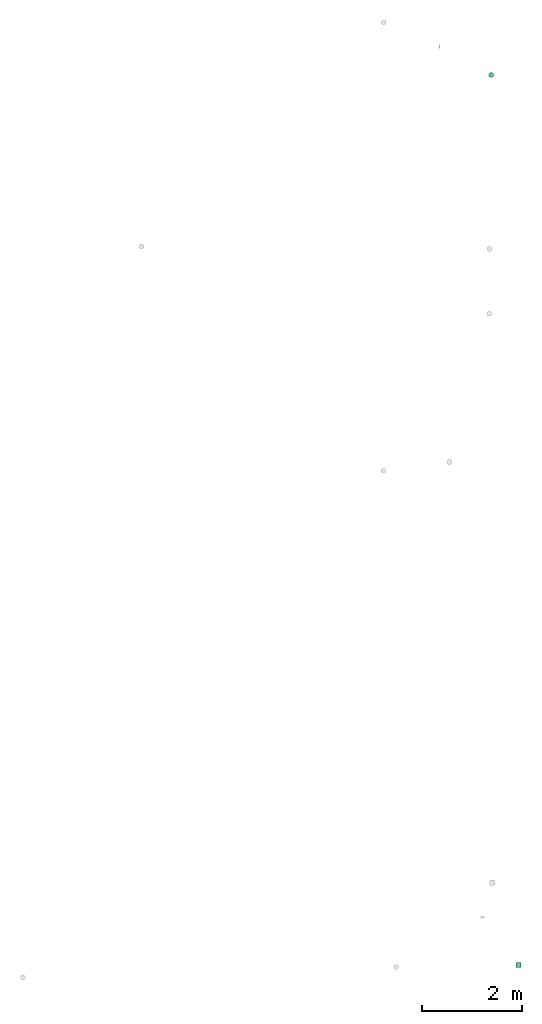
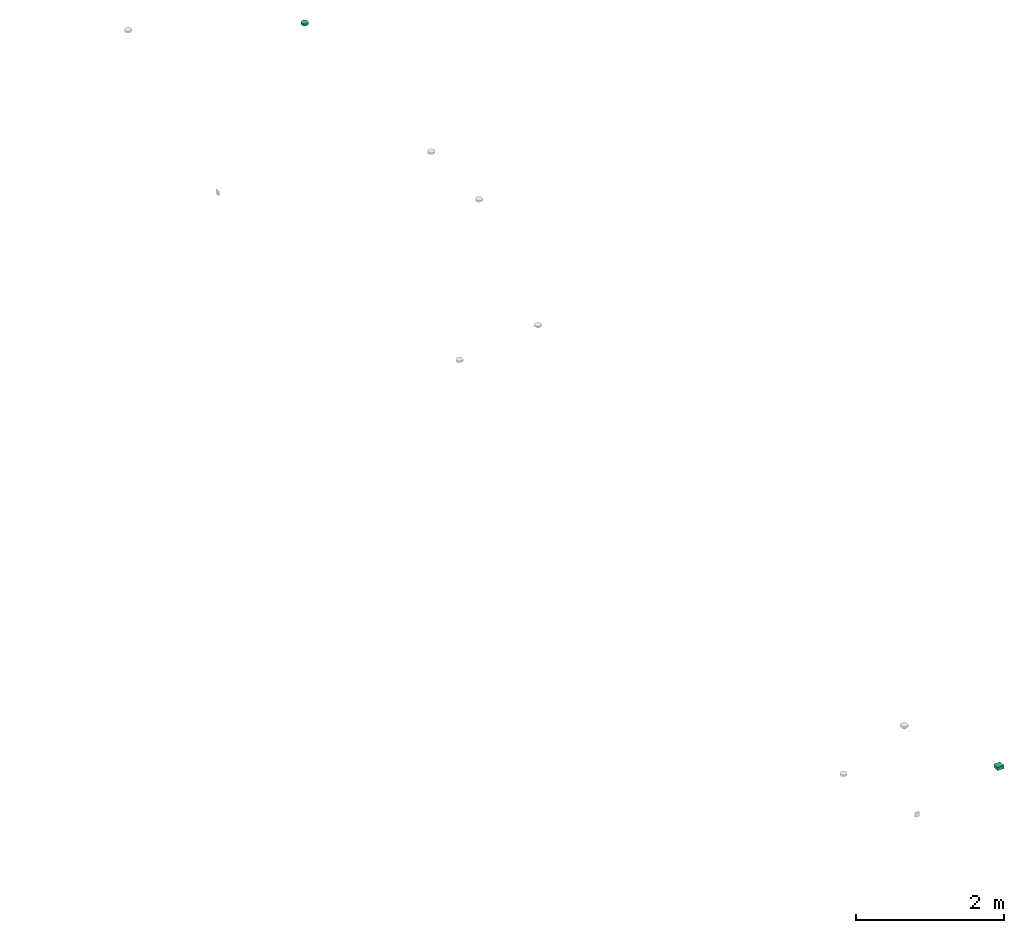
# One storey, part 8 of 10: 2 distribution control elements.
"""IFC2X3 building model written with IfcOpenShell, lengths in millimetres."""

from ifc_helpers import new_model, entity, si_unit, converted_unit, derived_unit, direction, frame, origin_with_axes, place, context, subcontext, project, spatial, open_shell, surface_model, source, transform, mapped, type_object, element, save


model = new_model("IFC2X3")

# Units and contexts
model_context = context("Model", 3, precision=0.01, world=frame((0.0, 4.29681676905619e-09, 0.0)), true_north=direction((4.01073788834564e-13, 1.0)))
plan_context = context("Plan", 3, precision=0.01, world=frame((0.0, 4.29681676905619e-09, 0.0)), true_north=direction((4.01073788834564e-13, 1.0)))
body_context = subcontext(model_context, "Body", "Model", "MODEL_VIEW")
ifc_project = project(units=[converted_unit("PLANEANGLEUNIT", "DEGREE", entity("IfcPositiveLengthMeasure", 0.0174532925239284), si_unit("PLANEANGLEUNIT", "RADIAN"), dimensions=[0, 0, 0, 0, 0, 0, 0]), si_unit("AREAUNIT", "SQUARE_METRE"), si_unit("LENGTHUNIT", "METRE", prefix="MILLI"), si_unit("MASSUNIT", "GRAM", prefix="KILO"), si_unit("POWERUNIT", "WATT"), si_unit("PRESSUREUNIT", "PASCAL"), si_unit("FORCEUNIT", "NEWTON", prefix="KILO"), si_unit("ELECTRICVOLTAGEUNIT", "VOLT"), si_unit("ELECTRICCURRENTUNIT", "AMPERE"), si_unit("THERMODYNAMICTEMPERATUREUNIT", "DEGREE_CELSIUS"), si_unit("TIMEUNIT", "SECOND"), si_unit("VOLUMEUNIT", "CUBIC_METRE"), derived_unit("LINEARVELOCITYUNIT", [(si_unit("LENGTHUNIT", "METRE"), 1), (si_unit("TIMEUNIT", "SECOND"), -1)]), derived_unit("VOLUMETRICFLOWRATEUNIT", [(si_unit("VOLUMEUNIT", "CUBIC_METRE"), 1), (si_unit("TIMEUNIT", "SECOND"), -1)]), derived_unit("THERMALTRANSMITTANCEUNIT", [(si_unit("POWERUNIT", "WATT"), 1), (si_unit("THERMODYNAMICTEMPERATUREUNIT", "KELVIN"), -1), (si_unit("AREAUNIT", "SQUARE_METRE"), -1)]), derived_unit("SOUNDPRESSUREUNIT", [(si_unit("PRESSUREUNIT", "PASCAL"), 1)])], contexts=[model_context, plan_context])

# Site, building, storey
site_placement = place(None, frame((0.0, -4.29681676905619e-09, 0.0), z_axis=(0.0, 0.0, 1.0), x_axis=(1.0, 0.0, 0.0)))
site = spatial("IfcSite", under=ifc_project, at=site_placement, Name="ENGM", CompositionType="ELEMENT")
building_placement = place(site_placement, frame((0.0, 4.29681676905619e-09, 0.0), z_axis=(0.0, 0.0, 1.0), x_axis=(1.0, 0.0, 0.0)))
building = spatial("IfcBuilding", under=site, at=building_placement, Name="TS", CompositionType="ELEMENT")
storey_placement = place(building_placement, frame((0.0, 0.0, 210900.0), z_axis=(0.0, 0.0, 1.0), x_axis=(1.0, 0.0, 0.0)))
storey = spatial("IfcBuildingStorey", under=building, at=storey_placement, Name="Nivå F", CompositionType="ELEMENT", Elevation=210900.0)

# Distribution control elements
alarm_type_1 = type_object("IfcAlarmType", Name="Standard", PredefinedType="NOTDEFINED")
shared_shape_1 = source(origin_with_axes(), body_context, "Body", "SurfaceModel", [
    surface_model("IfcShellBasedSurfaceModel", [(-25.0, 43.30127, -28.9), (-35.35534, 35.35534, -28.9), (-18.0, 31.17691, -28.9), (-25.45584, 25.45584, -28.9), (-9.31749, 34.77333, -28.9), (-12.94095, 48.29629, -28.9), (0.0, 36.0, -28.9), (0.0, 50.0, -28.9), (-34.77333, 9.31749, -28.9), (-43.30127, 25.0, -28.9), (-48.29629, 12.94095, -28.9), (-36.0, 0.0, -28.9), (-50.0, 0.0, -28.9), (-31.17691, 18.0, -28.9), (9.31749, 34.77333, -28.9), (12.94095, 48.29629, -28.9), (18.0, 31.17691, -28.9), (35.35534, 35.35534, -28.9), (25.0, 43.30127, -28.9), (25.45584, 25.45584, -28.9), (31.17691, 18.0, -28.9), (34.77333, 9.31749, -28.9), (43.30127, 25.0, -28.9), (48.29629, 12.94095, -28.9), (36.0, 0.0, -28.9), (50.0, 0.0, -28.9), (-34.77333, -9.31749, -28.9), (-48.29629, -12.94095, -28.9), (-31.17691, -18.0, -28.9), (-43.30127, -25.0, -28.9), (-25.45584, -25.45584, -28.9), (-35.35534, -35.35534, -28.9), (-18.0, -31.17691, -28.9), (-25.0, -43.30127, -28.9), (-9.31749, -34.77333, -28.9), (-12.94095, -48.29629, -28.9), (0.0, -36.0, -28.9), (0.0, -50.0, -28.9), (43.30127, -25.0, -28.9), (31.17691, -18.0, -28.9), (35.35534, -35.35534, -28.9), (34.77333, -9.31749, -28.9), (48.29629, -12.94095, -28.9), (25.45584, -25.45584, -28.9), (9.31749, -34.77333, -28.9), (12.94095, -48.29629, -28.9), (18.0, -31.17691, -28.9), (25.0, -43.30127, -28.9), (-25.0, -43.30127, -29.1), (-35.35534, -35.35534, -29.1), (-18.0, -31.17691, -29.1), (-25.45584, -25.45584, -29.1), (-9.31749, -34.77333, -29.1), (-12.94095, -48.29629, -29.1), (0.0, -36.0, -29.1), (0.0, -50.0, -29.1), (-34.77333, -9.31749, -29.1), (-43.30127, -25.0, -29.1), (-48.29629, -12.94095, -29.1), (-36.0, 0.0, -29.1), (-50.0, 0.0, -29.1), (-31.17691, -18.0, -29.1), (9.31749, -34.77333, -29.1), (12.94095, -48.29629, -29.1), (18.0, -31.17691, -29.1), (35.35534, -35.35534, -29.1), (25.0, -43.30127, -29.1), (25.45584, -25.45584, -29.1), (31.17691, -18.0, -29.1), (34.77333, -9.31749, -29.1), (43.30127, -25.0, -29.1), (48.29629, -12.94095, -29.1), (36.0, 0.0, -29.1), (50.0, 0.0, -29.1), (-34.77333, 9.31749, -29.1), (-48.29629, 12.94095, -29.1), (-31.17691, 18.0, -29.1), (-43.30127, 25.0, -29.1), (-25.45584, 25.45584, -29.1), (-35.35534, 35.35534, -29.1), (-18.0, 31.17691, -29.1), (-25.0, 43.30127, -29.1), (-9.31749, 34.77333, -29.1), (-12.94095, 48.29629, -29.1), (0.0, 36.0, -29.1), (0.0, 50.0, -29.1), (43.30127, 25.0, -29.1), (31.17691, 18.0, -29.1), (35.35534, 35.35534, -29.1), (34.77333, 9.31749, -29.1), (48.29629, 12.94095, -29.1), (25.45584, 25.45584, -29.1), (9.31749, 34.77333, -29.1), (12.94095, 48.29629, -29.1), (18.0, 31.17691, -29.1), (25.0, 43.30127, -29.1), (6.47048, -24.14815, -44.9), (12.5, -21.65064, -44.9), (17.67767, -17.67767, -44.9), (24.14815, -6.47048, -44.9), (-24.14815, -6.47048, -44.9), (21.65064, -12.5, -44.9), (-21.65064, 12.5, -44.9), (0.0, -25.0, -44.9), (-12.5, -21.65064, -44.9), (-6.47048, -24.14815, -44.9), (-17.67767, -17.67767, -44.9), (-21.65064, -12.5, -44.9), (25.0, 0.0, -44.9), (24.14815, 6.47048, -44.9), (21.65064, 12.5, -44.9), (17.67767, 17.67767, -44.9), (12.5, 21.65064, -44.9), (6.47048, 24.14815, -44.9), (0.0, 25.0, -44.9), (-25.0, 0.0, -44.9), (-24.14815, 6.47048, -44.9), (-12.5, 21.65064, -44.9), (-17.67767, 17.67767, -44.9), (-6.47048, 24.14815, -44.9), (0.0, 25.0, -45.1), (6.47048, 24.14815, -45.1), (12.5, 21.65064, -45.1), (-21.65064, 12.5, -45.1), (17.67767, 17.67767, -45.1), (21.65064, 12.5, -45.1), (24.14815, 6.47048, -45.1), (-12.5, 21.65064, -45.1), (-17.67767, 17.67767, -45.1), (-6.47048, 24.14815, -45.1), (-25.0, 0.0, -45.1), (-24.14815, 6.47048, -45.1), (-24.14815, -6.47048, -45.1), (24.14815, -6.47048, -45.1), (6.47048, -24.14815, -45.1), (21.65064, -12.5, -45.1), (17.67767, -17.67767, -45.1), (12.5, -21.65064, -45.1), (-12.5, -21.65064, -45.1), (-17.67767, -17.67767, -45.1), (-21.65064, -12.5, -45.1), (0.0, -25.0, -45.1), (-6.47048, -24.14815, -45.1), (25.0, 0.0, -45.1), (-1.46739, 34.60682, -29.0), (0.0, 34.8, -29.0), (0.0, 35.0, -29.0), (-34.60682, 1.46739, -29.0), (-35.0, 0.0, -29.0), (-34.8, 0.0, -29.0), (-17.5, 30.31089, -29.0), (-18.5742, 29.23669, -29.0), (-17.4, 30.13768, -29.0), (-24.60732, -24.60732, -29.0), (-18.5742, -29.23669, -29.0), (-29.23669, -18.5742, -29.0), (34.8, 0.0, -29.0), (34.60682, -1.46739, -29.0), (35.0, 0.0, -29.0), (17.4, 30.13768, -29.0), (17.5, 30.31089, -29.0), (16.03261, 30.70407, -29.0), (30.13768, 17.4, -29.0), (30.31089, 17.5, -29.0), (29.23669, 18.5742, -29.0), (34.60682, 1.46739, -29.0), (33.61422, -9.0069, -29.0), (30.70407, -16.03261, -29.0), (-33.61422, -9.0069, -29.0), (-30.70407, -16.03261, -29.0), (-34.60682, -1.46739, -29.0), (-30.13768, -17.4, -29.0), (-30.31089, -17.5, -29.0), (-17.5, -30.31089, -29.0), (-17.4, -30.13768, -29.0), (-1.46739, -34.60682, -29.0), (0.0, -35.0, -29.0), (0.0, -34.8, -29.0), (-16.03261, -30.70407, -29.0), (-9.0069, -33.61422, -29.0), (1.46739, -34.60682, -29.0), (30.13768, -17.4, -29.0), (29.23669, -18.5742, -29.0), (30.31089, -17.5, -29.0), (24.60732, -24.60732, -29.0), (18.5742, -29.23669, -29.0), (9.0069, -33.61422, -29.0), (16.03261, -30.70407, -29.0), (-30.13768, 17.4, -29.0), (-30.31089, 17.5, -29.0), (-30.70407, 16.03261, -29.0), (17.4, -30.13768, -29.0), (17.5, -30.31089, -29.0), (-33.61422, 9.0069, -29.0), (-29.23669, 18.5742, -29.0), (-24.60732, 24.60732, -29.0), (-16.03261, 30.70407, -29.0), (-9.0069, 33.61422, -29.0), (1.46739, 34.60682, -29.0), (9.0069, 33.61422, -29.0), (18.5742, 29.23669, -29.0), (24.60732, 24.60732, -29.0), (30.70407, 16.03261, -29.0), (33.61422, 9.0069, -29.0), (23.00389, 18.55381, -38.25), (14.9, 25.80756, -38.25), (21.07178, 21.07178, -38.25), (29.66376, 1.03484, -38.25), (30.0, 0.0, -38.25), (29.8, 0.0, -38.25), (24.27051, 17.63356, -38.25), (24.68215, 16.36666, -38.25), (10.52665, 27.61906, -38.25), (28.78459, 7.71281, -38.25), (-10.52665, 27.61906, -38.25), (-23.00389, 18.55381, -38.25), (-14.9, 25.80756, -38.25), (8.32335, 28.5317, -38.25), (0.0, 29.8, -38.25), (7.71281, 28.78459, -38.25), (-8.32335, 28.5317, -38.25), (-24.68215, 16.36666, -38.25), (-28.78459, 7.71281, -38.25), (-25.80756, 14.9, -38.25), (-9.27051, 28.5317, -38.25), (-29.66376, 1.03484, -38.25), (-29.8, 0.0, -38.25), (-30.0, 0.0, -38.25), (-28.78459, -7.71281, -38.25), (-24.68215, -16.36666, -38.25), (-25.80756, -14.9, -38.25), (29.66376, -1.03484, -38.25), (-7.71281, 28.78459, -38.25), (25.80756, 14.9, -38.25), (14.9, -25.80756, -38.25), (10.52665, -27.61906, -38.25), (23.00389, -18.55381, -38.25), (28.78459, -7.71281, -38.25), (24.68215, -16.36666, -38.25), (0.0, -29.8, -38.25), (-7.71281, -28.78459, -38.25), (-8.32335, -28.5317, -38.25), (8.32335, -28.5317, -38.25), (9.27051, 28.5317, -38.25), (-29.66376, -1.03484, -38.25), (21.07178, -21.07178, -38.25), (-23.00389, -18.55381, -38.25), (-24.27051, -17.63356, -38.25), (-9.27051, -28.5317, -38.25), (-10.52665, -27.61906, -38.25), (-21.07178, -21.07178, -38.25), (-14.9, -25.80756, -38.25), (9.27051, -28.5317, -38.25), (7.71281, -28.78459, -38.25), (24.27051, -17.63356, -38.25), (25.80756, -14.9, -38.25), (-21.07178, 21.07178, -38.25), (-24.27051, 17.63356, -38.25), (33.28589, -6.39713, -29.0), (27.13526, -8.81678, -38.25), (-16.77051, -23.08263, -38.25), (-23.90544, -23.90544, -29.0), (-27.13526, -8.81678, -38.25), (-33.28589, -6.39713, -29.0), (16.77051, -23.08263, -38.25), (8.75, -32.65544, -29.0), (0.0, -28.5317, -38.25), (23.90544, -23.90544, -29.0), (-8.75, -32.65544, -29.0), (-33.28589, 6.39713, -29.0), (-27.13526, 8.81678, -38.25), (16.77051, 23.08263, -38.25), (23.90544, 23.90544, -29.0), (27.13526, 8.81678, -38.25), (33.28589, 6.39713, -29.0), (-16.77051, 23.08263, -38.25), (-8.75, 32.65544, -29.0), (0.0, 28.5317, -38.25), (-23.90544, 23.90544, -29.0), (8.75, 32.65544, -29.0), (12.4, 21.47743, -45.0), (17.53625, 17.53625, -45.0), (19.07577, 15.5299, -45.0), (20.22543, 14.69463, -45.0), (20.59905, 13.54472, -45.0), (24.66376, 1.03484, -45.0), (25.0, 0.0, -45.0), (24.8, 0.0, -45.0), (8.88673, 22.93267, -45.0), (23.95496, 6.41871, -45.0), (-8.88673, 22.93267, -45.0), (-19.07577, 15.5299, -45.0), (-12.4, 21.47743, -45.0), (6.84976, 23.77641, -45.0), (0.0, 24.8, -45.0), (6.41871, 23.95496, -45.0), (-7.72542, 23.77641, -45.0), (-6.84976, 23.77641, -45.0), (-21.47743, 12.4, -45.0), (-20.59905, 13.54472, -45.0), (-23.95496, 6.41871, -45.0), (-25.0, 0.0, -45.0), (-24.66376, 1.03484, -45.0), (-24.8, 0.0, -45.0), (-23.95496, -6.41871, -45.0), (-20.59905, -13.54472, -45.0), (-21.47743, -12.4, -45.0), (-6.41871, 23.95496, -45.0), (24.66376, -1.03484, -45.0), (21.47743, 12.4, -45.0), (12.4, -21.47743, -45.0), (8.88673, -22.93267, -45.0), (19.07577, -15.5299, -45.0), (23.95496, -6.41871, -45.0), (20.59905, -13.54472, -45.0), (0.0, -24.8, -45.0), (-6.41871, -23.95496, -45.0), (-6.84976, -23.77641, -45.0), (7.72542, -23.77641, -45.0), (6.84976, -23.77641, -45.0), (7.72542, 23.77641, -45.0), (-24.66376, -1.03484, -45.0), (17.53625, -17.53625, -45.0), (-20.22543, -14.69463, -45.0), (-19.07577, -15.5299, -45.0), (-8.88673, -22.93267, -45.0), (-7.72542, -23.77641, -45.0), (-17.53625, -17.53625, -45.0), (-12.4, -21.47743, -45.0), (6.41871, -23.95496, -45.0), (20.22543, -14.69463, -45.0), (21.47743, -12.4, -45.0), (-17.53625, 17.53625, -45.0), (-20.22543, 14.69463, -45.0), (-22.61271, -7.34732, -45.0), (-13.97542, -19.23552, -45.0), (0.0, -23.77641, -45.0), (21.83768, -9.73262, -45.0), (13.97542, -19.23552, -45.0), (23.41884, -4.86631, -45.0), (22.61271, 7.34732, -45.0), (13.97542, 19.23552, -45.0), (0.0, 23.77641, -45.0), (-21.83768, 9.73262, -45.0), (-13.97542, 19.23552, -45.0), (-23.41884, 4.86631, -45.0), (12.94095, -48.29629, 0.0), (25.0, -43.30127, 0.0), (35.35534, -35.35534, 0.0), (48.29629, -12.94095, 0.0), (-48.29629, -12.94095, 0.0), (43.30127, -25.0, 0.0), (-43.30127, 25.0, 0.0), (0.0, -50.0, 0.0), (-25.0, -43.30127, 0.0), (-12.94095, -48.29629, 0.0), (-35.35534, -35.35534, 0.0), (-43.30127, -25.0, 0.0), (50.0, 0.0, 0.0), (48.29629, 12.94095, 0.0), (43.30127, 25.0, 0.0), (35.35534, 35.35534, 0.0), (25.0, 43.30127, 0.0), (12.94095, 48.29629, 0.0), (0.0, 50.0, 0.0), (-50.0, 0.0, 0.0), (-48.29629, 12.94095, 0.0), (-25.0, 43.30127, 0.0), (-35.35534, 35.35534, 0.0), (-12.94095, 48.29629, 0.0), (0.0, 50.0, -29.0), (12.94095, 48.29629, -29.0), (25.0, 43.30127, -29.0), (-43.30127, 25.0, -29.0), (35.35534, 35.35534, -29.0), (43.30127, 25.0, -29.0), (48.29629, 12.94095, -29.0), (-25.0, 43.30127, -29.0), (-35.35534, 35.35534, -29.0), (-12.94095, 48.29629, -29.0), (-50.0, 0.0, -29.0), (-48.29629, 12.94095, -29.0), (-48.29629, -12.94095, -29.0), (48.29629, -12.94095, -29.0), (12.94095, -48.29629, -29.0), (43.30127, -25.0, -29.0), (35.35534, -35.35534, -29.0), (25.0, -43.30127, -29.0), (-25.0, -43.30127, -29.0), (-35.35534, -35.35534, -29.0), (-43.30127, -25.0, -29.0), (0.0, -50.0, -29.0), (-12.94095, -48.29629, -29.0), (50.0, 0.0, -29.0)], [open_shell([[[0, 1, 2]], [[2, 1, 3]], [[0, 2, 4]], [[5, 4, 6]], [[4, 5, 0]], [[5, 6, 7]], [[8, 9, 10]], [[11, 10, 12]], [[8, 10, 11]], [[13, 3, 9]], [[8, 13, 9]], [[9, 3, 1]], [[7, 14, 15]], [[14, 7, 6]], [[15, 14, 16]], [[17, 18, 19]], [[16, 18, 15]], [[19, 18, 16]], [[20, 21, 22]], [[20, 22, 17]], [[21, 23, 22]], [[23, 21, 24]], [[23, 24, 25]], [[20, 17, 19]], [[26, 12, 27]], [[28, 27, 29]], [[28, 26, 27]], [[30, 28, 29]], [[29, 31, 30]], [[32, 31, 33]], [[31, 32, 30]], [[32, 33, 34]], [[34, 35, 36]], [[35, 34, 33]], [[36, 35, 37]], [[38, 39, 40]], [[41, 39, 42]], [[41, 42, 25]], [[42, 39, 38]], [[39, 43, 40]], [[25, 24, 41]], [[44, 37, 45]], [[37, 44, 36]], [[44, 45, 46]], [[47, 40, 43]], [[47, 46, 45]], [[47, 43, 46]], [[26, 11, 12]], [[48, 49, 50]], [[50, 49, 51]], [[48, 50, 52]], [[53, 52, 54]], [[52, 53, 48]], [[53, 54, 55]], [[56, 57, 58]], [[59, 58, 60]], [[56, 58, 59]], [[61, 51, 57]], [[56, 61, 57]], [[57, 51, 49]], [[55, 62, 63]], [[62, 55, 54]], [[63, 62, 64]], [[65, 66, 67]], [[64, 66, 63]], [[67, 66, 64]], [[68, 69, 70]], [[68, 70, 65]], [[69, 71, 70]], [[71, 69, 72]], [[71, 72, 73]], [[68, 65, 67]], [[74, 60, 75]], [[76, 75, 77]], [[76, 74, 75]], [[78, 76, 77]], [[77, 79, 78]], [[80, 79, 81]], [[79, 80, 78]], [[80, 81, 82]], [[82, 83, 84]], [[83, 82, 81]], [[84, 83, 85]], [[86, 87, 88]], [[89, 87, 90]], [[89, 90, 73]], [[90, 87, 86]], [[87, 91, 88]], [[73, 72, 89]], [[92, 85, 93]], [[85, 92, 84]], [[92, 93, 94]], [[95, 88, 91]], [[95, 94, 93]], [[95, 91, 94]], [[74, 59, 60]], [[11, 59, 8]], [[8, 74, 13]], [[2, 3, 78]], [[76, 3, 13]], [[4, 2, 80]], [[74, 76, 13]], [[8, 59, 74]], [[84, 6, 82]], [[4, 80, 82]], [[80, 2, 78]], [[3, 76, 78]], [[4, 82, 6]], [[14, 92, 16]], [[16, 94, 19]], [[21, 20, 87]], [[91, 20, 19]], [[24, 21, 89]], [[92, 94, 16]], [[14, 84, 92]], [[21, 87, 89]], [[87, 20, 91]], [[19, 94, 91]], [[24, 89, 72]], [[6, 84, 14]], [[24, 72, 41]], [[41, 69, 39]], [[46, 43, 67]], [[68, 43, 39]], [[44, 46, 64]], [[69, 68, 39]], [[41, 72, 69]], [[54, 36, 62]], [[44, 64, 62]], [[64, 46, 67]], [[43, 68, 67]], [[44, 62, 36]], [[34, 52, 32]], [[32, 50, 30]], [[26, 28, 61]], [[51, 28, 30]], [[11, 26, 56]], [[52, 50, 32]], [[34, 54, 52]], [[26, 61, 56]], [[61, 28, 51]], [[30, 50, 51]], [[11, 56, 59]], [[36, 54, 34]], [[58, 27, 60]], [[57, 29, 58]], [[33, 49, 48]], [[57, 49, 31]], [[35, 48, 53]], [[58, 29, 27]], [[27, 12, 60]], [[35, 33, 48]], [[31, 49, 33]], [[31, 29, 57]], [[37, 35, 53]], [[53, 55, 37]], [[63, 45, 55]], [[66, 47, 63]], [[38, 65, 70]], [[66, 65, 40]], [[42, 70, 71]], [[66, 40, 47]], [[47, 45, 63]], [[25, 42, 71]], [[38, 70, 42]], [[38, 40, 65]], [[73, 25, 71]], [[55, 45, 37]], [[90, 23, 73]], [[86, 22, 90]], [[18, 88, 95]], [[86, 88, 17]], [[15, 95, 93]], [[90, 22, 23]], [[23, 25, 73]], [[15, 18, 95]], [[17, 88, 18]], [[17, 22, 86]], [[7, 15, 93]], [[93, 85, 7]], [[83, 5, 85]], [[81, 0, 83]], [[9, 79, 77]], [[81, 79, 1]], [[10, 77, 75]], [[81, 1, 0]], [[0, 5, 83]], [[12, 10, 75]], [[9, 77, 10]], [[9, 1, 79]], [[60, 12, 75]], [[85, 5, 7]], [[96, 97, 98]], [[96, 98, 99]], [[96, 99, 100]], [[99, 98, 101]], [[102, 100, 99]], [[103, 104, 105]], [[103, 96, 104]], [[106, 100, 107]], [[106, 104, 96]], [[100, 106, 96]], [[99, 108, 102]], [[109, 110, 111]], [[109, 111, 112]], [[112, 113, 114]], [[109, 112, 102]], [[102, 112, 114]], [[115, 102, 116]], [[100, 102, 115]], [[102, 117, 118]], [[117, 102, 119]], [[114, 119, 102]], [[102, 108, 109]], [[120, 121, 122]], [[123, 120, 122]], [[124, 125, 126]], [[124, 126, 122]], [[123, 122, 126]], [[127, 123, 128]], [[123, 127, 129]], [[123, 130, 131]], [[123, 129, 120]], [[123, 132, 130]], [[123, 126, 133]], [[132, 123, 133]], [[134, 133, 135]], [[136, 137, 134]], [[136, 134, 135]], [[138, 133, 134]], [[132, 139, 140]], [[132, 133, 139]], [[138, 141, 142]], [[139, 133, 138]], [[134, 141, 138]], [[133, 126, 143]], [[132, 100, 130]], [[140, 107, 132]], [[104, 139, 138]], [[140, 139, 106]], [[105, 138, 142]], [[132, 107, 100]], [[100, 115, 130]], [[105, 104, 138]], [[106, 139, 104]], [[106, 107, 140]], [[103, 105, 142]], [[142, 141, 103]], [[134, 96, 141]], [[137, 97, 134]], [[101, 136, 135]], [[137, 136, 98]], [[99, 135, 133]], [[137, 98, 97]], [[97, 96, 134]], [[108, 99, 133]], [[101, 135, 99]], [[101, 98, 136]], [[143, 108, 133]], [[141, 96, 103]], [[126, 109, 143]], [[125, 110, 126]], [[112, 124, 122]], [[125, 124, 111]], [[113, 122, 121]], [[126, 110, 109]], [[109, 108, 143]], [[113, 112, 122]], [[111, 124, 112]], [[111, 110, 125]], [[114, 113, 121]], [[121, 120, 114]], [[129, 119, 120]], [[127, 117, 129]], [[102, 128, 123]], [[127, 128, 118]], [[116, 123, 131]], [[127, 118, 117]], [[117, 119, 129]], [[115, 116, 131]], [[102, 123, 116]], [[102, 118, 128]], [[130, 115, 131]], [[120, 119, 114]], [[144, 145, 146]], [[147, 148, 149]], [[150, 151, 152]], [[153, 154, 155]], [[156, 157, 158]], [[159, 160, 161]], [[162, 163, 164]], [[156, 158, 165]], [[166, 157, 167]], [[168, 169, 170]], [[170, 149, 148]], [[171, 169, 172]], [[173, 174, 154]], [[175, 176, 177]], [[174, 173, 178]], [[155, 171, 172]], [[179, 175, 178]], [[180, 177, 176]], [[181, 182, 183]], [[181, 183, 167]], [[184, 182, 185]], [[186, 187, 180]], [[188, 189, 190]], [[191, 192, 185]], [[191, 187, 192]], [[193, 147, 190]], [[188, 194, 189]], [[195, 194, 151]], [[152, 196, 150]], [[197, 196, 144]], [[145, 198, 146]], [[199, 198, 161]], [[159, 200, 160]], [[201, 200, 164]], [[162, 202, 163]], [[203, 202, 165]], [[204, 205, 206]], [[207, 208, 209]], [[204, 210, 211]], [[205, 204, 212]], [[213, 207, 211]], [[214, 215, 216]], [[217, 218, 219]], [[218, 217, 220]], [[221, 222, 223]], [[220, 214, 224]], [[225, 226, 227]], [[228, 229, 230]], [[209, 208, 231]], [[218, 220, 232]], [[213, 211, 233]], [[234, 235, 236]], [[237, 238, 231]], [[239, 240, 241]], [[241, 242, 239]], [[243, 212, 217]], [[227, 226, 244]], [[234, 236, 245]], [[229, 246, 247]], [[241, 248, 249]], [[250, 246, 251]], [[228, 244, 229]], [[235, 252, 242]], [[239, 242, 253]], [[236, 238, 254]], [[238, 237, 255]], [[251, 246, 249]], [[216, 215, 256]], [[215, 221, 257]], [[222, 221, 225]], [[208, 158, 258]], [[183, 259, 258]], [[260, 261, 247]], [[172, 262, 247]], [[263, 227, 262]], [[192, 252, 264]], [[260, 248, 173]], [[261, 260, 173]], [[252, 265, 266]], [[227, 263, 148]], [[172, 263, 262]], [[258, 259, 208]], [[254, 267, 264]], [[268, 173, 248]], [[252, 192, 265]], [[192, 264, 267]], [[267, 254, 183]], [[259, 183, 254]], [[268, 266, 176]], [[265, 176, 266]], [[248, 266, 268]], [[172, 247, 261]], [[227, 148, 269]], [[189, 270, 269]], [[271, 272, 210]], [[163, 273, 210]], [[274, 208, 273]], [[150, 224, 275]], [[271, 243, 160]], [[272, 271, 160]], [[224, 276, 277]], [[208, 274, 158]], [[163, 274, 273]], [[269, 270, 227]], [[257, 278, 275]], [[279, 160, 243]], [[224, 150, 276]], [[150, 275, 278]], [[278, 257, 189]], [[270, 189, 257]], [[279, 277, 146]], [[276, 146, 277]], [[243, 277, 279]], [[163, 210, 272]], [[171, 230, 228]], [[168, 228, 226]], [[179, 240, 251]], [[174, 251, 250]], [[153, 250, 230]], [[168, 171, 228]], [[226, 149, 168]], [[251, 174, 179]], [[174, 250, 153]], [[230, 171, 153]], [[240, 179, 177]], [[177, 239, 240]], [[184, 245, 234]], [[191, 234, 253]], [[156, 209, 237]], [[166, 237, 255]], [[181, 255, 245]], [[239, 186, 253]], [[186, 191, 253]], [[177, 186, 239]], [[184, 181, 245]], [[191, 184, 234]], [[181, 166, 255]], [[166, 156, 237]], [[162, 233, 213]], [[203, 213, 209]], [[199, 219, 205]], [[159, 205, 206]], [[201, 206, 233]], [[203, 162, 213]], [[209, 156, 203]], [[205, 159, 199]], [[159, 206, 201]], [[233, 162, 201]], [[219, 199, 145]], [[145, 218, 219]], [[195, 256, 216]], [[152, 216, 232]], [[149, 226, 222]], [[193, 222, 223]], [[188, 223, 256]], [[218, 197, 232]], [[197, 152, 232]], [[145, 197, 218]], [[195, 188, 256]], [[152, 195, 216]], [[188, 193, 223]], [[193, 149, 222]], [[215, 216, 256]], [[221, 222, 225]], [[225, 227, 226]], [[257, 221, 215]], [[216, 215, 214]], [[212, 204, 205]], [[220, 218, 232]], [[218, 220, 217]], [[217, 212, 243]], [[233, 211, 213]], [[208, 207, 209]], [[237, 238, 255]], [[252, 235, 242]], [[218, 217, 219]], [[227, 244, 226]], [[222, 221, 223]], [[228, 229, 244]], [[239, 253, 242]], [[246, 251, 249]], [[249, 248, 241]], [[231, 238, 237]], [[208, 209, 231]], [[251, 246, 250]], [[254, 238, 236]], [[236, 234, 245]], [[214, 220, 224]], [[242, 241, 239]], [[239, 241, 240]], [[246, 229, 247]], [[230, 229, 228]], [[234, 236, 235]], [[205, 204, 206]], [[204, 211, 210]], [[213, 211, 207]], [[280, 281, 282]], [[282, 283, 284]], [[285, 286, 287]], [[280, 282, 288]], [[289, 285, 284]], [[290, 291, 292]], [[293, 294, 295]], [[290, 296, 297]], [[294, 293, 297]], [[298, 299, 300]], [[301, 302, 303]], [[304, 305, 306]], [[294, 297, 307]], [[308, 287, 286]], [[289, 284, 309]], [[310, 311, 312]], [[313, 314, 308]], [[315, 316, 317]], [[311, 318, 319]], [[293, 320, 288]], [[301, 303, 321]], [[310, 312, 322]], [[323, 305, 324]], [[325, 317, 326]], [[327, 324, 328]], [[304, 321, 305]], [[317, 319, 315]], [[315, 319, 329]], [[312, 314, 330]], [[331, 314, 313]], [[328, 324, 325]], [[292, 291, 332]], [[291, 299, 333]], [[300, 299, 302]], [[262, 301, 334]], [[334, 323, 247]], [[248, 335, 326]], [[301, 262, 227]], [[334, 247, 262]], [[260, 323, 335]], [[266, 248, 326]], [[336, 252, 266]], [[252, 336, 318]], [[323, 260, 247]], [[248, 260, 335]], [[254, 337, 259]], [[318, 264, 252]], [[338, 254, 264]], [[339, 286, 208]], [[264, 318, 338]], [[259, 339, 208]], [[338, 330, 254]], [[266, 326, 336]], [[259, 337, 339]], [[337, 254, 330]], [[273, 286, 340]], [[340, 283, 210]], [[243, 341, 320]], [[286, 273, 208]], [[340, 210, 273]], [[271, 283, 341]], [[277, 243, 320]], [[342, 224, 277]], [[224, 342, 296]], [[283, 271, 210]], [[243, 271, 341]], [[257, 343, 270]], [[296, 275, 224]], [[344, 257, 275]], [[345, 301, 227]], [[275, 296, 344]], [[270, 345, 227]], [[344, 333, 257]], [[277, 320, 342]], [[270, 343, 345]], [[343, 257, 333]], [[230, 306, 304]], [[228, 304, 303]], [[240, 316, 328]], [[251, 328, 327]], [[250, 327, 306]], [[228, 230, 304]], [[303, 226, 228]], [[328, 251, 240]], [[251, 327, 250]], [[306, 230, 250]], [[316, 240, 239]], [[239, 315, 316]], [[245, 322, 310]], [[234, 310, 329]], [[209, 287, 313]], [[237, 313, 331]], [[255, 331, 322]], [[315, 253, 329]], [[253, 234, 329]], [[239, 253, 315]], [[255, 322, 245]], [[234, 245, 310]], [[331, 255, 237]], [[237, 209, 313]], [[233, 309, 289]], [[213, 289, 287]], [[219, 295, 280]], [[205, 280, 281]], [[206, 281, 309]], [[213, 233, 289]], [[287, 209, 213]], [[280, 205, 219]], [[205, 281, 206]], [[309, 233, 206]], [[295, 219, 218]], [[218, 294, 295]], [[256, 332, 292]], [[216, 292, 307]], [[226, 303, 300]], [[222, 300, 298]], [[223, 298, 332]], [[294, 232, 307]], [[232, 216, 307]], [[218, 232, 294]], [[223, 332, 256]], [[216, 256, 292]], [[298, 223, 222]], [[222, 226, 300]], [[346, 347, 348]], [[346, 348, 349]], [[346, 349, 350]], [[349, 348, 351]], [[352, 350, 349]], [[353, 354, 355]], [[353, 346, 354]], [[356, 350, 357]], [[356, 354, 346]], [[350, 356, 346]], [[349, 358, 352]], [[359, 360, 361]], [[359, 361, 362]], [[362, 363, 364]], [[359, 362, 352]], [[352, 362, 364]], [[365, 352, 366]], [[350, 352, 365]], [[352, 367, 368]], [[367, 352, 369]], [[364, 369, 352]], [[352, 358, 359]], [[370, 371, 372]], [[373, 370, 372]], [[374, 375, 376]], [[374, 376, 372]], [[373, 372, 376]], [[377, 373, 378]], [[373, 377, 379]], [[373, 380, 381]], [[373, 379, 370]], [[373, 382, 380]], [[373, 376, 383]], [[382, 373, 383]], [[384, 383, 385]], [[386, 387, 384]], [[386, 384, 385]], [[388, 383, 384]], [[382, 389, 390]], [[382, 383, 389]], [[388, 391, 392]], [[389, 383, 388]], [[384, 391, 388]], [[383, 376, 393]], [[382, 350, 380]], [[390, 357, 382]], [[354, 389, 388]], [[390, 389, 356]], [[355, 388, 392]], [[382, 357, 350]], [[350, 365, 380]], [[355, 354, 388]], [[356, 389, 354]], [[356, 357, 390]], [[353, 355, 392]], [[392, 391, 353]], [[384, 346, 391]], [[387, 347, 384]], [[351, 386, 385]], [[387, 386, 348]], [[349, 385, 383]], [[387, 348, 347]], [[347, 346, 384]], [[358, 349, 383]], [[351, 385, 349]], [[351, 348, 386]], [[393, 358, 383]], [[391, 346, 353]], [[376, 359, 393]], [[375, 360, 376]], [[362, 374, 372]], [[375, 374, 361]], [[363, 372, 371]], [[376, 360, 359]], [[359, 358, 393]], [[363, 362, 372]], [[361, 374, 362]], [[361, 360, 375]], [[364, 363, 371]], [[371, 370, 364]], [[369, 370, 379]], [[367, 379, 377]], [[352, 373, 381]], [[366, 381, 380]], [[379, 367, 369]], [[367, 377, 378]], [[367, 378, 368]], [[368, 378, 352]], [[352, 378, 373]], [[352, 381, 366]], [[380, 365, 366]], [[370, 369, 364]]])]),
])
distribution_control_element_1_placement = place(storey_placement, frame((535697.34571, 459907.66925, 3800.0), z_axis=(0.0, 0.0, 1.0), x_axis=(1.0, 0.0, 0.0)))
element("IfcDistributionControlElement", 1, at=distribution_control_element_1_placement, inside=storey, type_object=alarm_type_1, Name="Standard", context=body_context, shape_type="MappedRepresentation", body=[
    mapped(shared_shape_1, transform((0.0, 0.0, 0.0), scale=1.0)),
])
alarm_type_2 = type_object("IfcAlarmType", Name="FIRE-FAD-FIRE-DUMMY", PredefinedType="NOTDEFINED")
shared_shape_2 = source(origin_with_axes(), body_context, "Body", "SurfaceModel", [
    surface_model("IfcShellBasedSurfaceModel", [(50.0, -50.0, 50.0), (50.0, 50.0, 50.0), (-50.0, 50.0, 50.0), (-50.0, -50.0, 50.0), (-50.0, -50.0, 0.0), (-50.0, 50.0, 0.0), (50.0, 50.0, 0.0), (50.0, -50.0, 0.0)], [open_shell([[[0, 1, 2]], [[2, 3, 0]], [[4, 5, 6]], [[6, 7, 4]], [[2, 1, 6]], [[6, 5, 2]], [[3, 2, 5]], [[5, 4, 3]], [[0, 3, 4]], [[4, 7, 0]], [[1, 0, 7]], [[7, 6, 1]]])]),
])
distribution_control_element_2_placement = place(storey_placement, frame((536249.55078, 442057.65366, 2100.0), z_axis=(0.0, 0.0, 1.0), x_axis=(1.0, 0.0, 0.0)))
element("IfcDistributionControlElement", 2, at=distribution_control_element_2_placement, inside=storey, type_object=alarm_type_2, Name="FIRE-FAD-FIRE-DUMMY", context=body_context, shape_type="MappedRepresentation", body=[
    mapped(shared_shape_2, transform((0.0, 0.0, 0.0), scale=1.0)),
])

save(model, "model.ifc")
